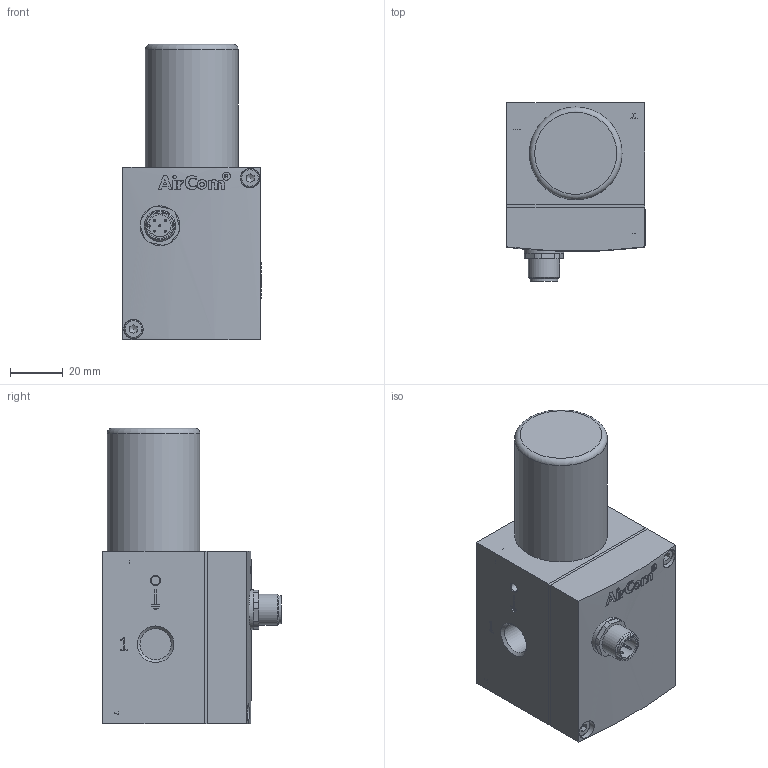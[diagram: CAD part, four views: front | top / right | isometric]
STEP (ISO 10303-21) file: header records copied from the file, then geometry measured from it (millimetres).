
FILE_DESCRIPTION((''),'2;1');
FILE_NAME('U:\AirCom-Produktdokumentation\Proportionaldruckregler\PD\Zeichnungen\CAD-Aircom\3D\B-PDA42-100.stp','2011-10-20T14:07:27',('Frank Schroers'),(''),'Autodesk Inventor 2008','Autodesk Inventor 2008','');
FILE_SCHEMA(('AUTOMOTIVE_DESIGN { 1 0 10303 214 1 1 1 1 }'));
Length unit declared in the file: millimetre
Products named in the file (5): B-PDA42-100; ISO 4762 M4 x 40; 28675 M4; B-PDA42-100-Steckermutter
Assembly tree (8 placements, depth 2):
  B-PDA42-100
    B-PDA42-100
    ISO 4762 M4 x 40  x4
    28675 M4  x2
    B-PDA42-100-Steckermutter
Bounding box: 52.29 x 67.5 x 111.51 mm (x, y, z)
Volume: 228076.9 mm3; surface area: 33467.8 mm2
Topology: 8 solids, 8 shells, 347 faces, 799 edges, 522 vertices
Faces by surface type: plane 197, bspline 59, cylinder 58, cone 28, torus 5
Full cylindrical faces by diameter (mm): 0.8 x5, 1.2 x1, 3.3 x3, 4 x8, 7 x4, 7.3 x2, 7.8 x4, 8.4 x1, 9.5 x1, 10.5 x1, 11.8 x5, 13.6 x1, 15 x1, 35 x1
Entity records: 16968 total; most frequent: CARTESIAN_POINT 10768, ORIENTED_EDGE 1226, DIRECTION 1074, EDGE_CURVE 613, VERTEX_POINT 437, EDGE_LOOP 402, AXIS2_PLACEMENT_3D 371, VECTOR 332
